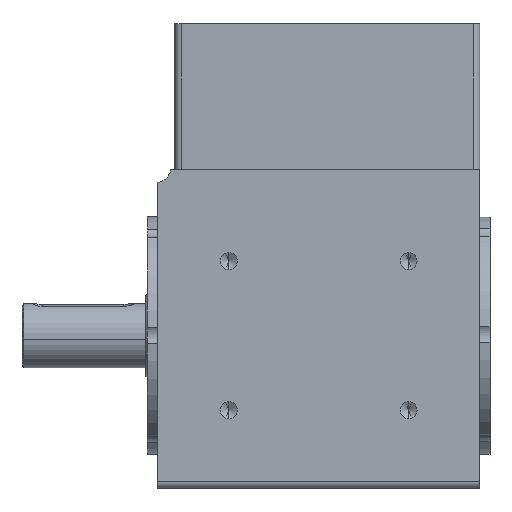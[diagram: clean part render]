
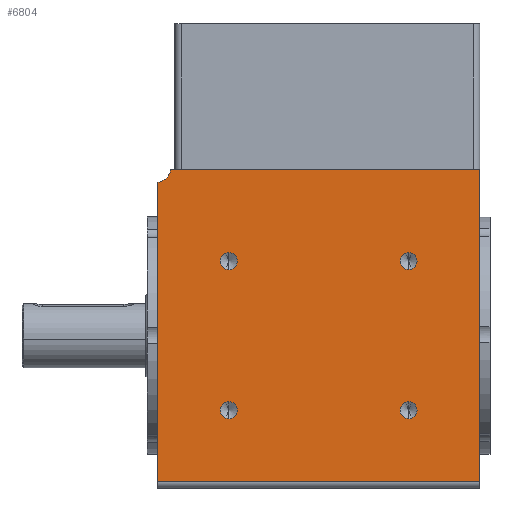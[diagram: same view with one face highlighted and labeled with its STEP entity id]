
A CAD part, front view. The second image highlights one B-rep face of the part: STEP entity #6804.
In plain terms, the highlighted planar face has unit normal (0, -1, 0).
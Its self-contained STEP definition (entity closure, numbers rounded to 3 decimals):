
#71 = EDGE_LOOP ( 'NONE', ( #13238, #27648 ) ) ;
#302 = EDGE_CURVE ( 'NONE', #19329, #8424, #30903, .T. ) ;
#346 = EDGE_CURVE ( 'NONE', #27669, #19329, #16760, .T. ) ;
#446 = EDGE_LOOP ( 'NONE', ( #10963, #14477 ) ) ;
#1070 = CARTESIAN_POINT ( 'NONE',  ( -37.743, -60.486, 94. ) ) ;
#1221 = CARTESIAN_POINT ( 'NONE',  ( 36.257, -60.486, 23. ) ) ;
#1238 = CARTESIAN_POINT ( 'NONE',  ( 36.257, -60.486, 69.5 ) ) ;
#1259 = ORIENTED_EDGE ( 'NONE', *, *, #18142, .T. ) ;
#1297 = DIRECTION ( 'NONE',  ( 0., 0., -1. ) ) ;
#1315 = ORIENTED_EDGE ( 'NONE', *, *, #18572, .F. ) ;
#1378 = CARTESIAN_POINT ( 'NONE',  ( 36.257, -60.486, 23. ) ) ;
#2115 = FACE_BOUND ( 'NONE', #4612, .T. ) ;
#3160 = LINE ( 'NONE', #24930, #29048 ) ;
#3572 = DIRECTION ( 'NONE',  ( 1., 0., 0. ) ) ;
#3726 = DIRECTION ( 'NONE',  ( 0., 0., -1. ) ) ;
#3900 = DIRECTION ( 'NONE',  ( 0., 0., -1. ) ) ;
#4045 = VERTEX_POINT ( 'NONE', #25845 ) ;
#4063 = CARTESIAN_POINT ( 'NONE',  ( 57.257, -60.486, 94. ) ) ;
#4441 = PLANE ( 'NONE',  #26681 ) ;
#4602 = CARTESIAN_POINT ( 'NONE',  ( 36.257, -60.486, 25.5 ) ) ;
#4612 = EDGE_LOOP ( 'NONE', ( #1315, #24837 ) ) ;
#4797 = CARTESIAN_POINT ( 'NONE',  ( -37.743, -60.486, 2. ) ) ;
#5310 = EDGE_CURVE ( 'NONE', #12819, #6189, #30429, .T. ) ;
#6189 = VERTEX_POINT ( 'NONE', #21113 ) ;
#6594 = CIRCLE ( 'NONE', #17151, 2.5 ) ;
#6804 = ADVANCED_FACE ( 'NONE', ( #8713, #21281, #2115, #27995, #14632 ), #4441, .F. ) ;
#7029 = CARTESIAN_POINT ( 'NONE',  ( 57.257, -60.486, 94. ) ) ;
#7032 = CIRCLE ( 'NONE', #13426, 2.5 ) ;
#7088 = CIRCLE ( 'NONE', #30869, 2.5 ) ;
#7106 = DIRECTION ( 'NONE',  ( 0., -1., 0. ) ) ;
#7331 = DIRECTION ( 'NONE',  ( 0., -1., 0. ) ) ;
#7583 = CARTESIAN_POINT ( 'NONE',  ( 36.257, -60.486, 67. ) ) ;
#7787 = ORIENTED_EDGE ( 'NONE', *, *, #25668, .T. ) ;
#7956 = EDGE_LOOP ( 'NONE', ( #30553, #16861 ) ) ;
#8424 = VERTEX_POINT ( 'NONE', #7029 ) ;
#8713 = FACE_BOUND ( 'NONE', #7956, .T. ) ;
#8942 = VERTEX_POINT ( 'NONE', #4602 ) ;
#9087 = CARTESIAN_POINT ( 'NONE',  ( -16.743, -60.486, 20.5 ) ) ;
#9339 = CARTESIAN_POINT ( 'NONE',  ( -37.743, -60.486, 94. ) ) ;
#9442 = DIRECTION ( 'NONE',  ( 0., 1., 0. ) ) ;
#9743 = CARTESIAN_POINT ( 'NONE',  ( 36.257, -60.486, 64.5 ) ) ;
#10092 = DIRECTION ( 'NONE',  ( 0., 0., -1. ) ) ;
#10256 = CARTESIAN_POINT ( 'NONE',  ( -37.743, -60.486, 90.101 ) ) ;
#10606 = DIRECTION ( 'NONE',  ( 0., -1., 0. ) ) ;
#10618 = CARTESIAN_POINT ( 'NONE',  ( -16.743, -60.486, 23. ) ) ;
#10963 = ORIENTED_EDGE ( 'NONE', *, *, #18196, .F. ) ;
#11096 = ORIENTED_EDGE ( 'NONE', *, *, #30718, .F. ) ;
#11182 = CARTESIAN_POINT ( 'NONE',  ( -16.743, -60.486, 23. ) ) ;
#11510 = AXIS2_PLACEMENT_3D ( 'NONE', #11182, #28782, #13727 ) ;
#11601 = DIRECTION ( 'NONE',  ( 0., 0., -1. ) ) ;
#11626 = VECTOR ( 'NONE', #26078, 1000. ) ;
#12412 = AXIS2_PLACEMENT_3D ( 'NONE', #31344, #16300, #1297 ) ;
#12708 = LINE ( 'NONE', #4063, #31988 ) ;
#12819 = VERTEX_POINT ( 'NONE', #19534 ) ;
#13159 = DIRECTION ( 'NONE',  ( 0., 0., -1. ) ) ;
#13238 = ORIENTED_EDGE ( 'NONE', *, *, #30806, .F. ) ;
#13426 = AXIS2_PLACEMENT_3D ( 'NONE', #25692, #10606, #28199 ) ;
#13727 = DIRECTION ( 'NONE',  ( 0., 0., -1. ) ) ;
#14200 = AXIS2_PLACEMENT_3D ( 'NONE', #22404, #7331, #24918 ) ;
#14477 = ORIENTED_EDGE ( 'NONE', *, *, #27435, .F. ) ;
#14632 = FACE_OUTER_BOUND ( 'NONE', #21352, .T. ) ;
#14986 = LINE ( 'NONE', #23089, #27542 ) ;
#15909 = ORIENTED_EDGE ( 'NONE', *, *, #302, .F. ) ;
#16300 = DIRECTION ( 'NONE',  ( 0., -1., 0. ) ) ;
#16760 = CIRCLE ( 'NONE', #12412, 5. ) ;
#16861 = ORIENTED_EDGE ( 'NONE', *, *, #5310, .F. ) ;
#17114 = VERTEX_POINT ( 'NONE', #31396 ) ;
#17151 = AXIS2_PLACEMENT_3D ( 'NONE', #1221, #18736, #3726 ) ;
#18142 = EDGE_CURVE ( 'NONE', #20442, #22420, #14986, .T. ) ;
#18196 = EDGE_CURVE ( 'NONE', #4045, #8942, #20081, .T. ) ;
#18572 = EDGE_CURVE ( 'NONE', #23460, #17114, #7088, .T. ) ;
#18736 = DIRECTION ( 'NONE',  ( 0., -1., 0. ) ) ;
#18913 = DIRECTION ( 'NONE',  ( 0., -1., 0. ) ) ;
#19329 = VERTEX_POINT ( 'NONE', #32335 ) ;
#19534 = CARTESIAN_POINT ( 'NONE',  ( -16.743, -60.486, 69.5 ) ) ;
#20081 = CIRCLE ( 'NONE', #21356, 2.5 ) ;
#20442 = VERTEX_POINT ( 'NONE', #4797 ) ;
#21058 = EDGE_CURVE ( 'NONE', #6189, #12819, #7032, .T. ) ;
#21113 = CARTESIAN_POINT ( 'NONE',  ( -16.743, -60.486, 64.5 ) ) ;
#21281 = FACE_BOUND ( 'NONE', #71, .T. ) ;
#21352 = EDGE_LOOP ( 'NONE', ( #7787, #1259, #11096, #15909, #24594 ) ) ;
#21356 = AXIS2_PLACEMENT_3D ( 'NONE', #1378, #18913, #3900 ) ;
#22136 = CARTESIAN_POINT ( 'NONE',  ( 36.257, -60.486, 67. ) ) ;
#22404 = CARTESIAN_POINT ( 'NONE',  ( -16.743, -60.486, 67. ) ) ;
#22420 = VERTEX_POINT ( 'NONE', #31049 ) ;
#23089 = CARTESIAN_POINT ( 'NONE',  ( 57.257, -60.486, 2. ) ) ;
#23460 = VERTEX_POINT ( 'NONE', #9087 ) ;
#24072 = CIRCLE ( 'NONE', #30581, 2.5 ) ;
#24594 = ORIENTED_EDGE ( 'NONE', *, *, #346, .F. ) ;
#24676 = DIRECTION ( 'NONE',  ( 0., 0., -1. ) ) ;
#24837 = ORIENTED_EDGE ( 'NONE', *, *, #29997, .F. ) ;
#24918 = DIRECTION ( 'NONE',  ( 0., 0., -1. ) ) ;
#24930 = CARTESIAN_POINT ( 'NONE',  ( -37.743, -60.486, 94. ) ) ;
#25179 = DIRECTION ( 'NONE',  ( 0., -1., 0. ) ) ;
#25442 = AXIS2_PLACEMENT_3D ( 'NONE', #22136, #7106, #24676 ) ;
#25668 = EDGE_CURVE ( 'NONE', #27669, #20442, #3160, .T. ) ;
#25692 = CARTESIAN_POINT ( 'NONE',  ( -16.743, -60.486, 67. ) ) ;
#25845 = CARTESIAN_POINT ( 'NONE',  ( 36.257, -60.486, 20.5 ) ) ;
#25966 = VERTEX_POINT ( 'NONE', #1238 ) ;
#26078 = DIRECTION ( 'NONE',  ( 1., 0., 0. ) ) ;
#26681 = AXIS2_PLACEMENT_3D ( 'NONE', #9339, #9442, #27034 ) ;
#27034 = DIRECTION ( 'NONE',  ( 0., 0., 1. ) ) ;
#27164 = VERTEX_POINT ( 'NONE', #9743 ) ;
#27435 = EDGE_CURVE ( 'NONE', #8942, #4045, #6594, .T. ) ;
#27466 = DIRECTION ( 'NONE',  ( 0., 0., -1. ) ) ;
#27542 = VECTOR ( 'NONE', #3572, 1000. ) ;
#27648 = ORIENTED_EDGE ( 'NONE', *, *, #31958, .F. ) ;
#27669 = VERTEX_POINT ( 'NONE', #10256 ) ;
#27995 = FACE_BOUND ( 'NONE', #446, .T. ) ;
#28199 = DIRECTION ( 'NONE',  ( 0., 0., -1. ) ) ;
#28211 = DIRECTION ( 'NONE',  ( 0., -1., 0. ) ) ;
#28782 = DIRECTION ( 'NONE',  ( 0., -1., 0. ) ) ;
#29048 = VECTOR ( 'NONE', #27466, 1000. ) ;
#29997 = EDGE_CURVE ( 'NONE', #17114, #23460, #32020, .T. ) ;
#30415 = CIRCLE ( 'NONE', #25442, 2.5 ) ;
#30429 = CIRCLE ( 'NONE', #14200, 2.5 ) ;
#30553 = ORIENTED_EDGE ( 'NONE', *, *, #21058, .F. ) ;
#30581 = AXIS2_PLACEMENT_3D ( 'NONE', #7583, #25179, #10092 ) ;
#30718 = EDGE_CURVE ( 'NONE', #8424, #22420, #12708, .T. ) ;
#30806 = EDGE_CURVE ( 'NONE', #27164, #25966, #30415, .T. ) ;
#30869 = AXIS2_PLACEMENT_3D ( 'NONE', #10618, #28211, #13159 ) ;
#30903 = LINE ( 'NONE', #1070, #11626 ) ;
#31049 = CARTESIAN_POINT ( 'NONE',  ( 57.257, -60.486, 2. ) ) ;
#31344 = CARTESIAN_POINT ( 'NONE',  ( -38.743, -60.486, 95. ) ) ;
#31396 = CARTESIAN_POINT ( 'NONE',  ( -16.743, -60.486, 25.5 ) ) ;
#31958 = EDGE_CURVE ( 'NONE', #25966, #27164, #24072, .T. ) ;
#31988 = VECTOR ( 'NONE', #11601, 1000. ) ;
#32020 = CIRCLE ( 'NONE', #11510, 2.5 ) ;
#32335 = CARTESIAN_POINT ( 'NONE',  ( -33.844, -60.486, 94. ) ) ;
